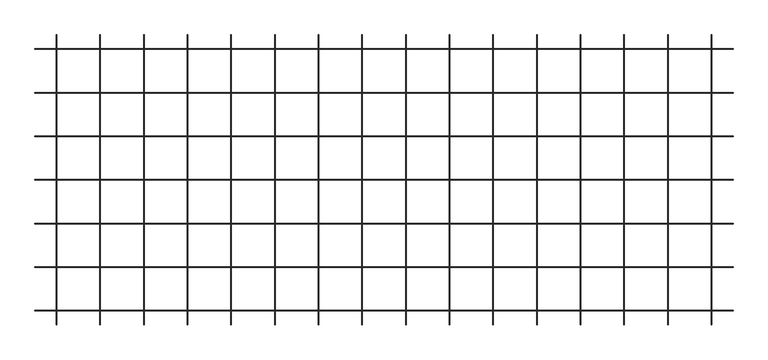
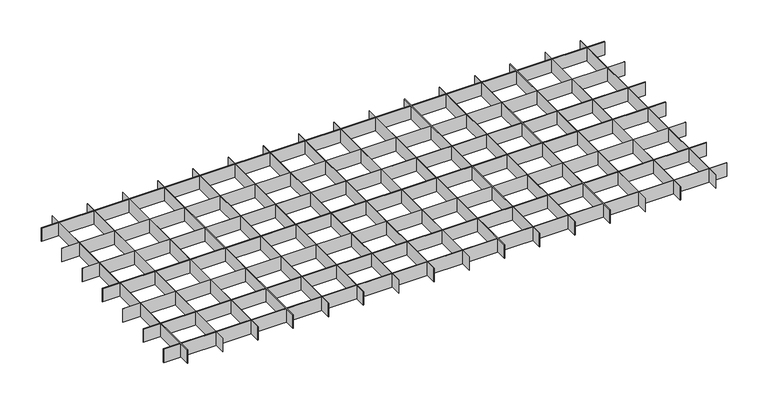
"""IFC4 building model written with IfcOpenShell, lengths in millimetres: proxy geometry, durlum_QUADRA_panel : durlum_QUADRA_width_cut."""

from ifc_helpers import new_model, si_unit, origin, origin_with_axes, place, context, project, spatial, polyline, outline, extrude, source, transform, mapped, element, save


def generic_models_3ca3e638(model_context):
    return source(origin(), model_context, "Body", "SweptSolid", [
        extrude(outline(polyline([(487.1, 249.5), (487.9, 249.5), (487.9, -249.5), (487.1, -249.5), (487.1, 249.5)])), origin_with_axes(), (0.0, 0.0, 1.0), 30.0),
        extrude(outline(polyline([(412.1, 249.5), (412.9, 249.5), (412.9, -249.5), (412.1, -249.5), (412.1, 249.5)])), origin_with_axes(), (0.0, 0.0, 1.0), 30.0),
        extrude(outline(polyline([(337.1, 249.5), (337.9, 249.5), (337.9, -249.5), (337.1, -249.5), (337.1, 249.5)])), origin_with_axes(), (0.0, 0.0, 1.0), 30.0),
        extrude(outline(polyline([(262.1, 249.5), (262.9, 249.5), (262.9, -249.5), (262.1, -249.5), (262.1, 249.5)])), origin_with_axes(), (0.0, 0.0, 1.0), 30.0),
        extrude(outline(polyline([(187.1, 249.5), (187.9, 249.5), (187.9, -249.5), (187.1, -249.5), (187.1, 249.5)])), origin_with_axes(), (0.0, 0.0, 1.0), 30.0),
        extrude(outline(polyline([(112.1, 249.5), (112.9, 249.5), (112.9, -249.5), (112.1, -249.5), (112.1, 249.5)])), origin_with_axes(), (0.0, 0.0, 1.0), 30.0),
        extrude(outline(polyline([(37.1, 249.5), (37.9, 249.5), (37.9, -249.5), (37.1, -249.5), (37.1, 249.5)])), origin_with_axes(), (0.0, 0.0, 1.0), 30.0),
        extrude(outline(polyline([(-37.9, 249.5), (-37.1, 249.5), (-37.1, -249.5), (-37.9, -249.5), (-37.9, 249.5)])), origin_with_axes(), (0.0, 0.0, 1.0), 30.0),
        extrude(outline(polyline([(-112.9, 249.5), (-112.1, 249.5), (-112.1, -249.5), (-112.9, -249.5), (-112.9, 249.5)])), origin_with_axes(), (0.0, 0.0, 1.0), 30.0),
        extrude(outline(polyline([(-187.9, 249.5), (-187.1, 249.5), (-187.1, -249.5), (-187.9, -249.5), (-187.9, 249.5)])), origin_with_axes(), (0.0, 0.0, 1.0), 30.0),
        extrude(outline(polyline([(-262.9, 249.5), (-262.1, 249.5), (-262.1, -249.5), (-262.9, -249.5), (-262.9, 249.5)])), origin_with_axes(), (0.0, 0.0, 1.0), 30.0),
        extrude(outline(polyline([(-337.9, 249.5), (-337.1, 249.5), (-337.1, -249.5), (-337.9, -249.5), (-337.9, 249.5)])), origin_with_axes(), (0.0, 0.0, 1.0), 30.0),
        extrude(outline(polyline([(-412.9, 249.5), (-412.1, 249.5), (-412.1, -249.5), (-412.9, -249.5), (-412.9, 249.5)])), origin_with_axes(), (0.0, 0.0, 1.0), 30.0),
        extrude(outline(polyline([(-487.9, 249.5), (-487.1, 249.5), (-487.1, -249.5), (-487.9, -249.5), (-487.9, 249.5)])), origin_with_axes(), (0.0, 0.0, 1.0), 30.0),
        extrude(outline(polyline([(599.5, -149.6), (599.5, -150.4), (-599.5, -150.4), (-599.5, -149.6), (599.5, -149.6)])), origin_with_axes(), (0.0, 0.0, 1.0), 30.0),
        extrude(outline(polyline([(599.5, -74.6), (599.5, -75.4), (-599.5, -75.4), (-599.5, -74.6), (599.5, -74.6)])), origin_with_axes(), (0.0, 0.0, 1.0), 30.0),
        extrude(outline(polyline([(599.5, 0.4), (599.5, -0.4), (-599.5, -0.4), (-599.5, 0.4), (599.5, 0.4)])), origin_with_axes(), (0.0, 0.0, 1.0), 30.0),
        extrude(outline(polyline([(599.5, 75.4), (599.5, 74.6), (-599.5, 74.6), (-599.5, 75.4), (599.5, 75.4)])), origin_with_axes(), (0.0, 0.0, 1.0), 30.0),
        extrude(outline(polyline([(599.5, 150.4), (599.5, 149.6), (-599.5, 149.6), (-599.5, 150.4), (599.5, 150.4)])), origin_with_axes(), (0.0, 0.0, 1.0), 30.0),
        extrude(outline(polyline([(562.1, 249.5), (562.9, 249.5), (562.9, -249.5), (562.1, -249.5), (562.1, 249.5)])), origin_with_axes(), (0.0, 0.0, 1.0), 30.0),
        extrude(outline(polyline([(-562.9, 249.5), (-562.1, 249.5), (-562.1, -249.5), (-562.9, -249.5), (-562.9, 249.5)])), origin_with_axes(), (0.0, 0.0, 1.0), 30.0),
        extrude(outline(polyline([(599.5, -224.6), (599.5, -225.4), (-599.5, -225.4), (-599.5, -224.6), (599.5, -224.6)])), origin_with_axes(), (0.0, 0.0, 1.0), 30.0),
        extrude(outline(polyline([(599.5, 225.4), (599.5, 224.6), (-599.5, 224.6), (-599.5, 225.4), (599.5, 225.4)])), origin_with_axes(), (0.0, 0.0, 1.0), 30.0),
    ])


if __name__ == "__main__":
    model = new_model("IFC4")
    model_context = context("Model", 3, world=origin())
    ifc_project = project(units=[si_unit("LENGTHUNIT", "METRE", prefix="MILLI")], contexts=[model_context])
    site = spatial("IfcSite", under=ifc_project)
    building = spatial("IfcBuilding", under=site)
    placement = place(None, origin())
    generic_models_shape = generic_models_3ca3e638(model_context)
    element("IfcBuildingElementProxy", 1, Name="durlum_QUADRA_panel : durlum_QUADRA_width_cut", ObjectType="durlum_QUADRA_panel : durlum_QUADRA_width_cut", at=placement, inside=building, context=model_context, shape_type="MappedRepresentation", body=[
        mapped(generic_models_shape, transform((0.0, 0.0, 0.0), x_axis=(1.0, 0.0, 0.0), y_axis=(0.0, 1.0, 0.0), z_axis=(0.0, 0.0, 1.0))),
    ])
    save(model, "model.ifc")
